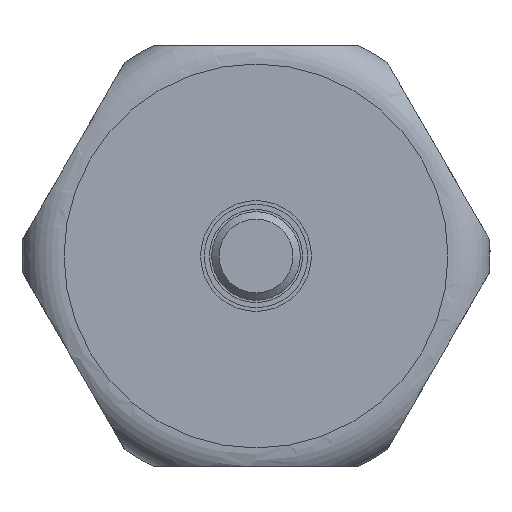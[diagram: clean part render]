
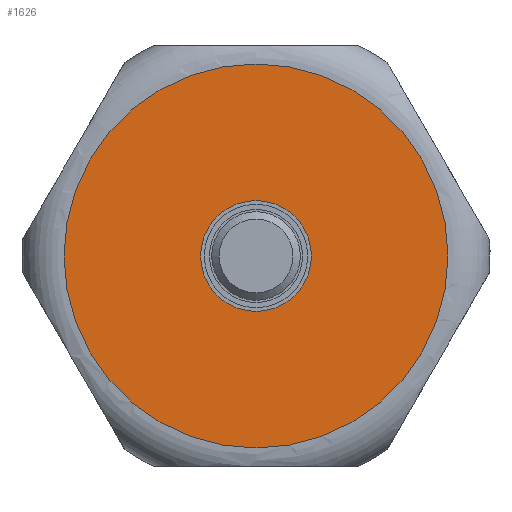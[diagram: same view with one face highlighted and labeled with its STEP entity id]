
A CAD part, left-side view. The second image highlights one B-rep face of the part: STEP entity #1626.
In plain terms, the highlighted planar face has unit normal (-1, 0, 0).
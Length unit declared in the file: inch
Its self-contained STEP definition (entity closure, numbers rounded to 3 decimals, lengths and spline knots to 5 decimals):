
#65=FACE_BOUND('',#388,.T.);
#293=FACE_OUTER_BOUND('',#387,.T.);
#387=EDGE_LOOP('',(#1171,#1172));
#388=EDGE_LOOP('',(#1173,#1174));
#479=CIRCLE('',#1750,0.14764);
#480=CIRCLE('',#1751,0.14764);
#506=CIRCLE('',#1795,0.51181);
#507=CIRCLE('',#1796,0.51181);
#619=VERTEX_POINT('',#2520);
#620=VERTEX_POINT('',#2521);
#659=VERTEX_POINT('',#2781);
#660=VERTEX_POINT('',#2782);
#795=EDGE_CURVE('',#619,#620,#479,.T.);
#796=EDGE_CURVE('',#620,#619,#480,.T.);
#852=EDGE_CURVE('',#659,#660,#506,.T.);
#853=EDGE_CURVE('',#660,#659,#507,.T.);
#1171=ORIENTED_EDGE('',*,*,#852,.F.);
#1172=ORIENTED_EDGE('',*,*,#853,.F.);
#1173=ORIENTED_EDGE('',*,*,#795,.T.);
#1174=ORIENTED_EDGE('',*,*,#796,.T.);
#1488=PLANE('',#1794);
#1626=ADVANCED_FACE('',(#293,#65),#1488,.T.);
#1750=AXIS2_PLACEMENT_3D('',#2522,#2025,#2026);
#1751=AXIS2_PLACEMENT_3D('',#2523,#2027,#2028);
#1794=AXIS2_PLACEMENT_3D('',#2780,#2129,#2130);
#1795=AXIS2_PLACEMENT_3D('',#2783,#2131,#2132);
#1796=AXIS2_PLACEMENT_3D('',#2784,#2133,#2134);
#2025=DIRECTION('center_axis',(1.,0.,0.));
#2026=DIRECTION('ref_axis',(0.,-0.866,0.5));
#2027=DIRECTION('center_axis',(1.,0.,0.));
#2028=DIRECTION('ref_axis',(0.,-0.866,0.5));
#2129=DIRECTION('center_axis',(-1.,0.,0.));
#2130=DIRECTION('ref_axis',(0.,-0.866,0.5));
#2131=DIRECTION('center_axis',(1.,0.,0.));
#2132=DIRECTION('ref_axis',(0.,0.866,-0.5));
#2133=DIRECTION('center_axis',(1.,0.,0.));
#2134=DIRECTION('ref_axis',(0.,0.866,-0.5));
#2520=CARTESIAN_POINT('',(-2.66747,-0.02656,-0.27052));
#2521=CARTESIAN_POINT('',(-2.66747,0.22916,-0.41816));
#2522=CARTESIAN_POINT('Origin',(-2.66747,0.1013,-0.34434));
#2523=CARTESIAN_POINT('Origin',(-2.66747,0.1013,-0.34434));
#2780=CARTESIAN_POINT('Origin',(-2.66747,0.54454,-0.60025));
#2781=CARTESIAN_POINT('',(-2.66747,0.54454,-0.60025));
#2782=CARTESIAN_POINT('',(-2.66747,-0.34194,-0.08844));
#2783=CARTESIAN_POINT('Origin',(-2.66747,0.1013,-0.34434));
#2784=CARTESIAN_POINT('Origin',(-2.66747,0.1013,-0.34434));
